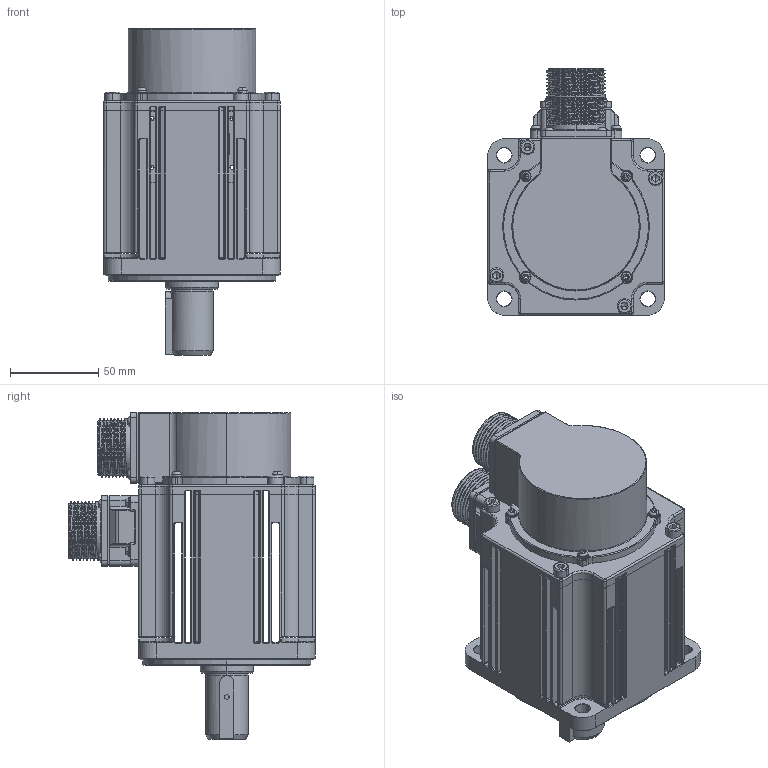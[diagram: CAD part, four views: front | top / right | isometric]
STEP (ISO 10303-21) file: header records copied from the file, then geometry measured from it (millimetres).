
FILE_DESCRIPTION (( 'STEP AP214' ), '1' );
FILE_NAME ('口100 1.0kW电机（雷赛）.STEP', '2024-09-18T07:50:59', ( '' ), ( '' ), 'SwSTEP 2.0', 'SolidWorks 2021', '' );
FILE_SCHEMA (( 'AUTOMOTIVE_DESIGN' ));
Length unit declared in the file: millimetre
Products named in the file (1): 口100 1.0kW电机（雷赛）
Bounding box: 100 x 139.5 x 185 mm (x, y, z)
Surface area: 115896.9 mm2 (no closed solid volume)
Topology: 0 solids, 70 shells, 1641 faces, 4485 edges, 2821 vertices
Faces by surface type: cylinder 675, plane 483, torus 338, sphere 71, cone 56, bspline 18
Entity records: 72432 total; most frequent: CARTESIAN_POINT 12889, DIRECTION 9678, ORIENTED_EDGE 7580, EDGE_CURVE 4410, AXIS2_PLACEMENT_3D 3855, VERTEX_POINT 2798, CIRCLE 2231, LINE 1968
